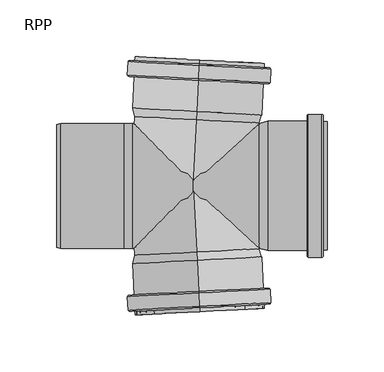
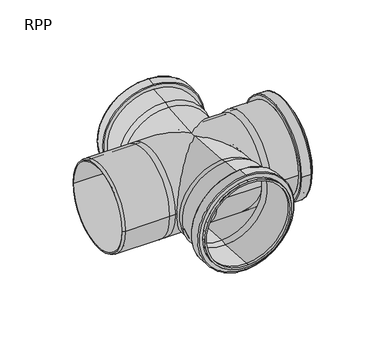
"""IFC4 building model written with IfcOpenShell, lengths in millimetres: pipe fitting geometry, RAUPIANO PLUS Double branch : RPP."""

from ifc_helpers import new_model, si_unit, point, frame, origin, place, context, project, spatial, polyline, circle_curve, ellipse_curve, trimmed, source, transform, mapped, element, save
from ifc_brep_helpers import plane_surface, cylinder_surface, revolved_surface, advanced_brep


def rpp_36789504(model_context):
    return source(origin(), model_context, "Body", "AdvancedBrep", [
        advanced_brep(
        [(58.4, 55.0, 0.0), (58.4, -55.0, 0.0), (65.6, -56.9292342, 0.0), (65.6, 56.9292342, 0.0), (0.0, 55.0, 0.0), (0.0, -55.0, 0.0), (-53.2659564, 55.0, 0.0), (-53.2659564, -55.0, 0.0), (-60.6, 55.0, 0.0), (-60.6, -55.0, 0.0), (-116.4, 55.0, 0.0), (-116.4, -55.0, 0.0), (-120.0, 54.0353829, 0.0), (-120.0, -54.0353829, 0.0), (-60.6, 52.3, 0.0), (-60.6, -52.3, 0.0), (-120.0, -52.3, 0.0), (-120.0, 52.3, 0.0), (-53.1883429, 52.3, 0.0), (-53.1883429, -52.3, 0.0), (0.0, 52.3, 0.0), (0.0, -52.3, 0.0), (58.4, 52.3, 0.0), (58.4, -52.3, 0.0), (65.6, 54.2292342, 0.0), (65.6, -54.2292342, 0.0), (114.4, 54.2292342, 0.0), (114.4, -54.2292342, 0.0), (118.0, 54.2292342, 0.0), (118.0, -54.2292342, 0.0), (114.4, 56.6076952, 0.0), (114.4, -56.6076952, 0.0), (118.0, -56.6076952, 0.0), (118.0, 56.6076952, 0.0), (113.4, 62.9292342, 0.0), (113.4, -62.9292342, 0.0), (114.4, -61.9292342, 0.0), (114.4, 61.9292342, 0.0), (101.5, 62.9292342, 0.0), (101.5, -62.9292342, 0.0), (100.5, 61.9292342, 0.0), (100.5, -61.9292342, 0.0), (100.5, -56.9292342, 0.0), (100.5, 56.9292342, 0.0)],
        [
            (0, 1, circle_curve(frame((58.4, 0.0, 0.0), z_axis=(1.0, 0.0, 0.0), x_axis=(0.0, -1.0, 0.0)), 55.0)),
            (1, 2),
            (2, 3, circle_curve(frame((65.6, 0.0, 0.0), z_axis=(-1.0, 0.0, 0.0), x_axis=(0.0, -1.0, 0.0)), 56.9292342)),
            (3, 0),
            (0, 4),
            (4, 5, circle_curve(frame((0.0, 0.0, 0.0), z_axis=(1.0, 0.0, 0.0), x_axis=(0.0, -1.0, 0.0)), 55.0)),
            (5, 1),
            (4, 6),
            (6, 7, circle_curve(frame((-53.2659564, 0.0, 0.0), z_axis=(1.0, 0.0, 0.0), x_axis=(0.0, -1.0, 0.0)), 55.0)),
            (7, 5),
            (6, 8),
            (8, 9, circle_curve(frame((-60.6, 0.0, 0.0), z_axis=(1.0, 0.0, 0.0), x_axis=(0.0, -1.0, 0.0)), 55.0)),
            (9, 7),
            (8, 10),
            (10, 11, circle_curve(frame((-116.4, 0.0, 0.0), z_axis=(1.0, 0.0, 0.0), x_axis=(0.0, -1.0, 0.0)), 55.0)),
            (11, 9),
            (10, 12),
            (12, 13, circle_curve(frame((-120.0, 0.0, 0.0), z_axis=(1.0, 0.0, 0.0), x_axis=(0.0, -1.0, 0.0)), 54.0353829)),
            (13, 11),
            (14, 15, circle_curve(frame((-60.6, 0.0, 0.0), z_axis=(1.0, 0.0, 0.0), x_axis=(0.0, -1.0, 0.0)), 52.3)),
            (15, 16),
            (16, 17, circle_curve(frame((-120.0, 0.0, 0.0), z_axis=(-1.0, 0.0, 0.0), x_axis=(0.0, -1.0, 0.0)), 52.3)),
            (17, 14),
            (14, 18),
            (18, 19, circle_curve(frame((-53.1883429, 0.0, 0.0), z_axis=(1.0, 0.0, 0.0), x_axis=(0.0, -1.0, 0.0)), 52.3)),
            (19, 15),
            (18, 20),
            (20, 21, circle_curve(frame((0.0, 0.0, 0.0), z_axis=(1.0, 0.0, 0.0), x_axis=(0.0, -1.0, 0.0)), 52.3)),
            (21, 19),
            (20, 22),
            (22, 23, circle_curve(frame((58.4, 0.0, 0.0), z_axis=(1.0, 0.0, 0.0), x_axis=(0.0, -1.0, 0.0)), 52.3)),
            (23, 21),
            (22, 24),
            (24, 25, circle_curve(frame((65.6, 0.0, 0.0), z_axis=(1.0, 0.0, 0.0), x_axis=(0.0, -1.0, 0.0)), 54.2292342)),
            (25, 23),
            (24, 26),
            (26, 27, circle_curve(frame((114.4, 0.0, 0.0), z_axis=(1.0, 0.0, 0.0), x_axis=(0.0, -1.0, 0.0)), 54.2292342)),
            (27, 25),
            (26, 28),
            (28, 29, circle_curve(frame((118.0, 0.0, 0.0), z_axis=(1.0, 0.0, 0.0), x_axis=(0.0, -1.0, 0.0)), 54.2292342)),
            (29, 27),
            (30, 31, circle_curve(frame((114.4, 0.0, 0.0), z_axis=(1.0, 0.0, 0.0), x_axis=(0.0, -1.0, 0.0)), 56.6076952)),
            (31, 32),
            (32, 33, circle_curve(frame((118.0, 0.0, 0.0), z_axis=(-1.0, 0.0, 0.0), x_axis=(0.0, -1.0, 0.0)), 56.6076952)),
            (33, 30),
            (34, 35, circle_curve(frame((113.4, 0.0, 0.0), z_axis=(1.0, 0.0, 0.0), x_axis=(0.0, -1.0, 0.0)), 62.9292342)),
            (35, 36, circle_curve(frame((113.4, -61.9292342, 0.0), z_axis=(0.0, 0.0, 1.0), x_axis=(1.0, 0.0, 0.0)), 1.0)),
            (36, 37, circle_curve(frame((114.4, 0.0, 0.0), z_axis=(-1.0, 0.0, 0.0), x_axis=(0.0, -1.0, 0.0)), 61.9292342)),
            (37, 34, circle_curve(frame((113.4, 61.9292342, 0.0), z_axis=(0.0, 0.0, 1.0), x_axis=(1.0, 0.0, 0.0)), 1.0)),
            (34, 38),
            (38, 39, circle_curve(frame((101.5, 0.0, 0.0), z_axis=(1.0, 0.0, 0.0), x_axis=(0.0, -1.0, 0.0)), 62.9292342)),
            (39, 35),
            (38, 40, circle_curve(frame((101.5, 61.9292342, 0.0), z_axis=(0.0, 0.0, 1.0), x_axis=(1.0, 0.0, 0.0)), 1.0)),
            (40, 41, circle_curve(frame((100.5, 0.0, 0.0), z_axis=(1.0, 0.0, 0.0), x_axis=(0.0, -1.0, 0.0)), 61.9292342)),
            (41, 39, circle_curve(frame((101.5, -61.9292342, 0.0), z_axis=(0.0, 0.0, 1.0), x_axis=(1.0, 0.0, 0.0)), 1.0)),
            (2, 42),
            (42, 43, circle_curve(frame((100.5, 0.0, 0.0), z_axis=(-1.0, 0.0, 0.0), x_axis=(0.0, -1.0, 0.0)), 56.9292342)),
            (43, 3),
            (1, 0, circle_curve(frame((58.4, 0.0, 0.0), z_axis=(1.0, 0.0, 0.0), x_axis=(0.0, 1.0, 0.0)), 55.0)),
            (3, 2, circle_curve(frame((65.6, 0.0, 0.0), z_axis=(-1.0, 0.0, 0.0), x_axis=(0.0, 1.0, 0.0)), 56.9292342)),
            (5, 4, circle_curve(frame((0.0, 0.0, 0.0), z_axis=(1.0, 0.0, 0.0), x_axis=(0.0, 1.0, 0.0)), 55.0)),
            (7, 6, circle_curve(frame((-53.2659564, 0.0, 0.0), z_axis=(1.0, 0.0, 0.0), x_axis=(0.0, 1.0, 0.0)), 55.0)),
            (9, 8, circle_curve(frame((-60.6, 0.0, 0.0), z_axis=(1.0, 0.0, 0.0), x_axis=(0.0, 1.0, 0.0)), 55.0)),
            (11, 10, circle_curve(frame((-116.4, 0.0, 0.0), z_axis=(1.0, 0.0, 0.0), x_axis=(0.0, 1.0, 0.0)), 55.0)),
            (13, 12, circle_curve(frame((-120.0, 0.0, 0.0), z_axis=(1.0, 0.0, 0.0), x_axis=(0.0, 1.0, 0.0)), 54.0353829)),
            (16, 17, circle_curve(frame((-120.0, 0.0, 0.0), z_axis=(1.0, 0.0, 0.0), x_axis=(0.0, 1.0, 0.0)), 52.3)),
            (15, 14, circle_curve(frame((-60.6, 0.0, 0.0), z_axis=(1.0, 0.0, 0.0), x_axis=(0.0, 1.0, 0.0)), 52.3)),
            (19, 18, circle_curve(frame((-53.1883429, 0.0, 0.0), z_axis=(1.0, 0.0, 0.0), x_axis=(0.0, 1.0, 0.0)), 52.3)),
            (21, 20, circle_curve(frame((0.0, 0.0, 0.0), z_axis=(1.0, 0.0, 0.0), x_axis=(0.0, 1.0, 0.0)), 52.3)),
            (23, 22, circle_curve(frame((58.4, 0.0, 0.0), z_axis=(1.0, 0.0, 0.0), x_axis=(0.0, 1.0, 0.0)), 52.3)),
            (25, 24, circle_curve(frame((65.6, 0.0, 0.0), z_axis=(1.0, 0.0, 0.0), x_axis=(0.0, 1.0, 0.0)), 54.2292342)),
            (27, 26, circle_curve(frame((114.4, 0.0, 0.0), z_axis=(1.0, 0.0, 0.0), x_axis=(0.0, 1.0, 0.0)), 54.2292342)),
            (29, 28, circle_curve(frame((118.0, 0.0, 0.0), z_axis=(1.0, 0.0, 0.0), x_axis=(0.0, 1.0, 0.0)), 54.2292342)),
            (32, 33, circle_curve(frame((118.0, 0.0, 0.0), z_axis=(1.0, 0.0, 0.0), x_axis=(0.0, 1.0, 0.0)), 56.6076952)),
            (31, 30, circle_curve(frame((114.4, 0.0, 0.0), z_axis=(1.0, 0.0, 0.0), x_axis=(0.0, 1.0, 0.0)), 56.6076952)),
            (36, 37, circle_curve(frame((114.4, 0.0, 0.0), z_axis=(1.0, 0.0, 0.0), x_axis=(0.0, 1.0, 0.0)), 61.9292342)),
            (35, 34, circle_curve(frame((113.4, 0.0, 0.0), z_axis=(1.0, 0.0, 0.0), x_axis=(0.0, 1.0, 0.0)), 62.9292342)),
            (39, 38, circle_curve(frame((101.5, 0.0, 0.0), z_axis=(1.0, 0.0, 0.0), x_axis=(0.0, 1.0, 0.0)), 62.9292342)),
            (41, 40, circle_curve(frame((100.5, 0.0, 0.0), z_axis=(1.0, 0.0, 0.0), x_axis=(0.0, 1.0, 0.0)), 61.9292342)),
            (42, 43, circle_curve(frame((100.5, 0.0, 0.0), z_axis=(1.0, 0.0, 0.0), x_axis=(0.0, 1.0, 0.0)), 56.9292342)),
        ],
        [
            revolved_surface(polyline([(65.6, -56.9292342, 0.0), (58.4, -55.0, 0.0)]), (0.0, 0.0, 0.0), (-1.0, 0.0, 0.0)),
            cylinder_surface(frame((0.0, 0.0, 0.0), z_axis=(-1.0, 0.0, 0.0), x_axis=(0.0, -1.0, 0.0)), 55.0),
            revolved_surface(polyline([(-116.4, -55.0, 0.0), (-120.0, -54.0353829, 0.0)]), (0.0, 0.0, 0.0), (-1.0, 0.0, 0.0)),
            revolved_surface(polyline([(-120.0, -52.3, 0.0), (-60.6, -52.3, 0.0)]), (0.0, 0.0, 0.0), (-1.0, 0.0, 0.0)),
            revolved_surface(polyline([(-60.6, -52.3, 0.0), (-53.1883429, -52.3, 0.0)]), (0.0, 0.0, 0.0), (-1.0, 0.0, 0.0)),
            revolved_surface(polyline([(-53.1883429, -52.3, 0.0), (0.0, -52.3, 0.0)]), (0.0, 0.0, 0.0), (-1.0, 0.0, 0.0)),
            revolved_surface(polyline([(0.0, -52.3, 0.0), (58.4, -52.3, 0.0)]), (0.0, 0.0, 0.0), (-1.0, 0.0, 0.0)),
            revolved_surface(polyline([(58.4, -52.3, 0.0), (65.6, -54.2292342, 0.0)]), (0.0, 0.0, 0.0), (-1.0, 0.0, 0.0)),
            revolved_surface(polyline([(65.6, -54.2292342, 0.0), (114.4, -54.2292342, 0.0)]), (0.0, 0.0, 0.0), (-1.0, 0.0, 0.0)),
            revolved_surface(polyline([(114.4, -54.2292342, 0.0), (118.0, -54.2292342, 0.0)]), (0.0, 0.0, 0.0), (-1.0, 0.0, 0.0)),
            cylinder_surface(frame((0.0, 0.0, 0.0), z_axis=(-1.0, 0.0, 0.0), x_axis=(0.0, -1.0, 0.0)), 56.6076952),
            revolved_surface(trimmed(ellipse_curve(frame((113.4, -61.9292342, 0.0), z_axis=(0.0, 0.0, -1.0), x_axis=(1.0, 0.0, 0.0)), 1.0, 1.0), [point((114.4, -61.9292342, 0.0))], [point((113.4, -62.9292342, 0.0))], True, "CARTESIAN"), (0.0, 0.0, 0.0), (-1.0, 0.0, 0.0)),
            cylinder_surface(frame((0.0, 0.0, 0.0), z_axis=(-1.0, 0.0, 0.0), x_axis=(0.0, -1.0, 0.0)), 62.9292342),
            revolved_surface(trimmed(ellipse_curve(frame((101.5, -61.9292342, 0.0), z_axis=(0.0, 0.0, -1.0), x_axis=(1.0, 0.0, 0.0)), 1.0, 1.0), [point((101.5, -62.9292342, 0.0))], [point((100.5, -61.9292342, 0.0))], True, "CARTESIAN"), (0.0, 0.0, 0.0), (-1.0, 0.0, 0.0)),
            cylinder_surface(frame((0.0, 0.0, 0.0), z_axis=(-1.0, 0.0, 0.0), x_axis=(0.0, -1.0, 0.0)), 56.9292342),
            revolved_surface(polyline([(65.6, 56.9292342, 0.0), (58.4, 55.0, 0.0)]), (0.0, 0.0, 0.0), (-1.0, 0.0, 0.0)),
            cylinder_surface(frame((0.0, 0.0, 0.0), z_axis=(-1.0, 0.0, 0.0), x_axis=(0.0, 1.0, 0.0)), 55.0),
            revolved_surface(polyline([(-116.4, 55.0, 0.0), (-120.0, 54.0353829, 0.0)]), (0.0, 0.0, 0.0), (-1.0, 0.0, 0.0)),
            plane_surface(frame((-120.0, 0.0, 0.0), z_axis=(-1.0, 0.0, 0.0), x_axis=(0.0, 1.0, 0.0))),
            revolved_surface(polyline([(-120.0, 52.3, 0.0), (-60.6, 52.3, 0.0)]), (0.0, 0.0, 0.0), (-1.0, 0.0, 0.0)),
            revolved_surface(polyline([(-60.6, 52.3, 0.0), (-53.1883429, 52.3, 0.0)]), (0.0, 0.0, 0.0), (-1.0, 0.0, 0.0)),
            revolved_surface(polyline([(-53.1883429, 52.3, 0.0), (0.0, 52.3, 0.0)]), (0.0, 0.0, 0.0), (-1.0, 0.0, 0.0)),
            revolved_surface(polyline([(0.0, 52.3, 0.0), (58.4, 52.3, 0.0)]), (0.0, 0.0, 0.0), (-1.0, 0.0, 0.0)),
            revolved_surface(polyline([(58.4, 52.3, 0.0), (65.6, 54.2292342, 0.0)]), (0.0, 0.0, 0.0), (-1.0, 0.0, 0.0)),
            revolved_surface(polyline([(65.6, 54.2292342, 0.0), (114.4, 54.2292342, 0.0)]), (0.0, 0.0, 0.0), (-1.0, 0.0, 0.0)),
            revolved_surface(polyline([(114.4, 54.2292342, 0.0), (118.0, 54.2292342, 0.0)]), (0.0, 0.0, 0.0), (-1.0, 0.0, 0.0)),
            plane_surface(frame((118.0, 0.0, 0.0), z_axis=(1.0, 0.0, 0.0), x_axis=(0.0, 1.0, 0.0))),
            cylinder_surface(frame((0.0, 0.0, 0.0), z_axis=(-1.0, 0.0, 0.0), x_axis=(0.0, 1.0, 0.0)), 56.6076952),
            plane_surface(frame((114.4, 0.0, 0.0), z_axis=(1.0, 0.0, 0.0), x_axis=(0.0, 1.0, 0.0))),
            revolved_surface(trimmed(ellipse_curve(frame((113.4, 61.9292342, 0.0), z_axis=(0.0, 0.0, 1.0), x_axis=(1.0, 0.0, 0.0)), 1.0, 1.0), [point((114.4, 61.9292342, 0.0))], [point((113.4, 62.9292342, 0.0))], True, "CARTESIAN"), (0.0, 0.0, 0.0), (-1.0, 0.0, 0.0)),
            cylinder_surface(frame((0.0, 0.0, 0.0), z_axis=(-1.0, 0.0, 0.0), x_axis=(0.0, 1.0, 0.0)), 62.9292342),
            revolved_surface(trimmed(ellipse_curve(frame((101.5, 61.9292342, 0.0), z_axis=(0.0, 0.0, 1.0), x_axis=(1.0, 0.0, 0.0)), 1.0, 1.0), [point((101.5, 62.9292342, 0.0))], [point((100.5, 61.9292342, 0.0))], True, "CARTESIAN"), (0.0, 0.0, 0.0), (-1.0, 0.0, 0.0)),
            plane_surface(frame((100.5, 0.0, 0.0), z_axis=(-1.0, 0.0, 0.0), x_axis=(0.0, 1.0, 0.0))),
            cylinder_surface(frame((0.0, 0.0, 0.0), z_axis=(-1.0, 0.0, 0.0), x_axis=(0.0, 1.0, 0.0)), 56.9292342),
        ],
        [
            (0, [[1, 2, 3, 4]]),
            (1, [[-1, 5, 6, 7]]),
            (1, [[-6, 8, 9, 10]]),
            (1, [[-9, 11, 12, 13]]),
            (1, [[-12, 14, 15, 16]]),
            (2, [[-15, 17, 18, 19]]),
            (3, [[20, 21, 22, 23]]),
            (4, [[-20, 24, 25, 26]]),
            (5, [[-25, 27, 28, 29]]),
            (6, [[-28, 30, 31, 32]]),
            (7, [[-31, 33, 34, 35]]),
            (8, [[-34, 36, 37, 38]]),
            (9, [[-37, 39, 40, 41]]),
            (10, [[42, 43, 44, 45]]),
            (11, [[46, 47, 48, 49]]),
            (12, [[-46, 50, 51, 52]]),
            (13, [[-51, 53, 54, 55]]),
            (14, [[-3, 56, 57, 58]]),
            (15, [[-2, 59, -4, 60]]),
            (16, [[-7, 61, -5, -59]]),
            (16, [[-10, 62, -8, -61]]),
            (16, [[-13, 63, -11, -62]]),
            (16, [[-16, 64, -14, -63]]),
            (17, [[-19, 65, -17, -64]]),
            (18, [[-18, -65], [-22, 66]]),
            (19, [[-21, 67, -23, -66]]),
            (20, [[-26, 68, -24, -67]]),
            (21, [[-29, 69, -27, -68]]),
            (22, [[-32, 70, -30, -69]]),
            (23, [[-35, 71, -33, -70]]),
            (24, [[-38, 72, -36, -71]]),
            (25, [[-41, 73, -39, -72]]),
            (26, [[-44, 74], [-40, -73]]),
            (27, [[-43, 75, -45, -74]]),
            (28, [[-48, 76], [-42, -75]]),
            (29, [[-47, 77, -49, -76]]),
            (30, [[-52, 78, -50, -77]]),
            (31, [[-55, 79, -53, -78]]),
            (32, [[-54, -79], [-57, 80]]),
            (33, [[-56, -60, -58, -80]]),
        ],
    ),
        advanced_brep(
        [(3.0564198, -58.3199648, 55.0), (3.0564198, -58.3199648, -55.0), (3.4332387, -65.5100975, -56.9292342), (3.4332387, -65.5100975, 56.9292342), (3.4332387, -65.5100975, 54.2292342), (3.4332387, -65.5100975, -54.2292342), (3.0564198, -58.3199648, -52.3), (3.0564198, -58.3199648, 52.3), (5.6208817, -107.252812, 54.2292342), (5.6208817, -107.252812, -54.2292342), (5.8092911, -110.8478784, 54.2292342), (5.8092911, -110.8478784, -54.2292342), (5.6208817, -107.252812, 56.6076952), (5.6208817, -107.252812, -56.6076952), (5.8092911, -110.8478784, -56.6076952), (5.8092911, -110.8478784, 56.6076952), (5.5685457, -106.2541825, 62.9292342), (5.5685457, -106.2541825, -62.9292342), (5.6208817, -107.252812, -61.9292342), (5.6208817, -107.252812, 61.9292342), (4.9457479, -94.370491, 62.9292342), (4.9457479, -94.370491, -62.9292342), (4.8934119, -93.3718615, 61.9292342), (4.8934119, -93.3718615, -61.9292342), (4.8934119, -93.3718615, -56.9292342), (4.8934119, -93.3718615, 56.9292342)],
        [
            (0, 1, circle_curve(frame((3.0564198, -58.3199648, 0.0), z_axis=(0.052335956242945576, -0.9986295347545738, 0.0), x_axis=(0.0, 0.0, -1.0)), 55.0)),
            (1, 2),
            (2, 3, circle_curve(frame((3.4332387, -65.5100975, 0.0), z_axis=(-0.052335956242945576, 0.9986295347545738, 0.0), x_axis=(0.0, 0.0, -1.0)), 56.9292342)),
            (3, 0),
            (4, 5, circle_curve(frame((3.4332387, -65.5100975, 0.0), z_axis=(0.052335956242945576, -0.9986295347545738, 0.0), x_axis=(0.0, 0.0, -1.0)), 54.2292342)),
            (5, 6),
            (6, 7, circle_curve(frame((3.0564198, -58.3199648, 0.0), z_axis=(-0.052335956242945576, 0.9986295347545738, 0.0), x_axis=(0.0, 0.0, -1.0)), 52.3)),
            (7, 4),
            (8, 9, circle_curve(frame((5.6208817, -107.252812, 0.0), z_axis=(0.052335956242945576, -0.9986295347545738, 0.0), x_axis=(0.0, 0.0, -1.0)), 54.2292342)),
            (9, 5),
            (4, 8),
            (10, 11, circle_curve(frame((5.8092911, -110.8478784, 0.0), z_axis=(0.052335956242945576, -0.9986295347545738, 0.0), x_axis=(0.0, 0.0, -1.0)), 54.2292342)),
            (11, 9),
            (8, 10),
            (12, 13, circle_curve(frame((5.6208817, -107.252812, 0.0), z_axis=(0.052335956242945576, -0.9986295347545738, 0.0), x_axis=(0.0, 0.0, -1.0)), 56.6076952)),
            (13, 14),
            (14, 15, circle_curve(frame((5.8092911, -110.8478784, 0.0), z_axis=(-0.052335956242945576, 0.9986295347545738, 0.0), x_axis=(0.0, 0.0, -1.0)), 56.6076952)),
            (15, 12),
            (16, 17, circle_curve(frame((5.5685457, -106.2541825, 0.0), z_axis=(0.052335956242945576, -0.9986295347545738, 0.0), x_axis=(0.0, 0.0, -1.0)), 62.9292342)),
            (17, 18, circle_curve(frame((5.5685457, -106.2541825, -61.9292342), z_axis=(-0.9986295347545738, -0.05233595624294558, 0.0), x_axis=(0.05233595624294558, -0.9986295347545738, 0.0)), 1.0)),
            (18, 19, circle_curve(frame((5.6208817, -107.252812, 0.0), z_axis=(-0.052335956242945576, 0.9986295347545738, 0.0), x_axis=(0.0, 0.0, -1.0)), 61.9292342)),
            (19, 16, circle_curve(frame((5.5685457, -106.2541825, 61.9292342), z_axis=(-0.9986295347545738, -0.05233595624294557, 0.0), x_axis=(0.05233595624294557, -0.9986295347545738, 0.0)), 1.0)),
            (20, 21, circle_curve(frame((4.9457479, -94.370491, 0.0), z_axis=(0.052335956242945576, -0.9986295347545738, 0.0), x_axis=(0.0, 0.0, -1.0)), 62.9292342)),
            (21, 17),
            (16, 20),
            (22, 23, circle_curve(frame((4.8934119, -93.3718615, 0.0), z_axis=(0.052335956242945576, -0.9986295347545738, 0.0), x_axis=(0.0, 0.0, -1.0)), 61.9292342)),
            (23, 21, circle_curve(frame((4.9457479, -94.370491, -61.9292342), z_axis=(-0.9986295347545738, -0.05233595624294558, 0.0), x_axis=(0.05233595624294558, -0.9986295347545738, 0.0)), 1.0)),
            (20, 22, circle_curve(frame((4.9457479, -94.370491, 61.9292342), z_axis=(-0.9986295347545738, -0.05233595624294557, 0.0), x_axis=(0.05233595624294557, -0.9986295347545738, 0.0)), 1.0)),
            (2, 24),
            (24, 25, circle_curve(frame((4.8934119, -93.3718615, 0.0), z_axis=(-0.052335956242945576, 0.9986295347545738, 0.0), x_axis=(0.0, 0.0, -1.0)), 56.9292342)),
            (25, 3),
            (1, 0, circle_curve(frame((3.0564198, -58.3199648, 0.0), z_axis=(0.052335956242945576, -0.9986295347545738, 0.0), x_axis=(0.0, 0.0, 1.0)), 55.0)),
            (3, 2, circle_curve(frame((3.4332387, -65.5100975, 0.0), z_axis=(-0.052335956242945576, 0.9986295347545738, 0.0), x_axis=(0.0, 0.0, 1.0)), 56.9292342)),
            (6, 7, circle_curve(frame((3.0564198, -58.3199648, 0.0), z_axis=(0.052335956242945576, -0.9986295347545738, 0.0), x_axis=(0.0, 0.0, 1.0)), 52.3)),
            (5, 4, circle_curve(frame((3.4332387, -65.5100975, 0.0), z_axis=(0.052335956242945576, -0.9986295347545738, 0.0), x_axis=(0.0, 0.0, 1.0)), 54.2292342)),
            (9, 8, circle_curve(frame((5.6208817, -107.252812, 0.0), z_axis=(0.052335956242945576, -0.9986295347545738, 0.0), x_axis=(0.0, 0.0, 1.0)), 54.2292342)),
            (11, 10, circle_curve(frame((5.8092911, -110.8478784, 0.0), z_axis=(0.052335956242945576, -0.9986295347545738, 0.0), x_axis=(0.0, 0.0, 1.0)), 54.2292342)),
            (14, 15, circle_curve(frame((5.8092911, -110.8478784, 0.0), z_axis=(0.052335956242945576, -0.9986295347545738, 0.0), x_axis=(0.0, 0.0, 1.0)), 56.6076952)),
            (13, 12, circle_curve(frame((5.6208817, -107.252812, 0.0), z_axis=(0.052335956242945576, -0.9986295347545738, 0.0), x_axis=(0.0, 0.0, 1.0)), 56.6076952)),
            (18, 19, circle_curve(frame((5.6208817, -107.252812, 0.0), z_axis=(0.052335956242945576, -0.9986295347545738, 0.0), x_axis=(0.0, 0.0, 1.0)), 61.9292342)),
            (17, 16, circle_curve(frame((5.5685457, -106.2541825, 0.0), z_axis=(0.052335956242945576, -0.9986295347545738, 0.0), x_axis=(0.0, 0.0, 1.0)), 62.9292342)),
            (21, 20, circle_curve(frame((4.9457479, -94.370491, 0.0), z_axis=(0.052335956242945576, -0.9986295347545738, 0.0), x_axis=(0.0, 0.0, 1.0)), 62.9292342)),
            (23, 22, circle_curve(frame((4.8934119, -93.3718615, 0.0), z_axis=(0.052335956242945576, -0.9986295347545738, 0.0), x_axis=(0.0, 0.0, 1.0)), 61.9292342)),
            (24, 25, circle_curve(frame((4.8934119, -93.3718615, 0.0), z_axis=(0.052335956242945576, -0.9986295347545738, 0.0), x_axis=(0.0, 0.0, 1.0)), 56.9292342)),
        ],
        [
            revolved_surface(polyline([(3.4332387, -65.5100975, -56.9292342), (3.0564198, -58.3199648, -55.0)]), (0.0, 0.0, 0.0), (-0.052335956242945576, 0.9986295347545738, 0.0)),
            revolved_surface(polyline([(3.0564198, -58.3199648, -52.3), (3.4332387, -65.5100975, -54.2292342)]), (0.0, 0.0, 0.0), (-0.052335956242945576, 0.9986295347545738, 0.0)),
            revolved_surface(polyline([(3.433238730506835, -65.51009749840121, -54.2292342), (5.6208816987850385, -107.25281200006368, -54.2292342)]), (0.0, 0.0, 0.0), (-0.052335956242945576, 0.9986295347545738, 0.0)),
            revolved_surface(polyline([(5.6208816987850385, -107.25281200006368, -54.2292342), (5.809291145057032, -110.84787839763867, -54.2292342)]), (0.0, 0.0, 0.0), (-0.052335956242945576, 0.9986295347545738, 0.0)),
            cylinder_surface(frame((0.0, 0.0, 0.0), z_axis=(-0.052335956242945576, 0.9986295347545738, 0.0), x_axis=(0.0, 0.0, -1.0)), 56.6076952),
            revolved_surface(trimmed(ellipse_curve(frame((5.5685457, -106.2541825, -61.9292342), z_axis=(0.9986295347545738, 0.05233595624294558, 0.0), x_axis=(0.05233595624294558, -0.9986295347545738, 0.0)), 1.0, 1.0), [point((5.6208817, -107.252812, -61.9292342))], [point((5.5685457, -106.2541825, -62.9292342))], True, "CARTESIAN"), (0.0, 0.0, 0.0), (-0.052335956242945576, 0.9986295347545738, 0.0)),
            cylinder_surface(frame((0.0, 0.0, 0.0), z_axis=(-0.052335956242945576, 0.9986295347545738, 0.0), x_axis=(0.0, 0.0, -1.0)), 62.9292342),
            revolved_surface(trimmed(ellipse_curve(frame((4.9457479, -94.370491, -61.9292342), z_axis=(0.9986295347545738, 0.05233595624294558, 0.0), x_axis=(0.05233595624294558, -0.9986295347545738, 0.0)), 1.0, 1.0), [point((4.9457479, -94.370491, -62.9292342))], [point((4.8934119, -93.3718615, -61.9292342))], True, "CARTESIAN"), (0.0, 0.0, 0.0), (-0.052335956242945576, 0.9986295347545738, 0.0)),
            cylinder_surface(frame((0.0, 0.0, 0.0), z_axis=(-0.052335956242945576, 0.9986295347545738, 0.0), x_axis=(0.0, 0.0, -1.0)), 56.9292342),
            revolved_surface(polyline([(3.4332387, -65.5100975, 56.9292342), (3.0564198, -58.3199648, 55.0)]), (0.0, 0.0, 0.0), (-0.052335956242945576, 0.9986295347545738, 0.0)),
            plane_surface(frame((3.0564198, -58.3199648, 0.0), z_axis=(-0.052335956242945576, 0.9986295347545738, 0.0), x_axis=(0.0, 0.0, 1.0))),
            revolved_surface(polyline([(3.0564198, -58.3199648, 52.3), (3.4332387, -65.5100975, 54.2292342)]), (0.0, 0.0, 0.0), (-0.052335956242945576, 0.9986295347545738, 0.0)),
            revolved_surface(polyline([(3.433238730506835, -65.51009749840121, 54.2292342), (5.6208816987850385, -107.25281200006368, 54.2292342)]), (0.0, 0.0, 0.0), (-0.052335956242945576, 0.9986295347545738, 0.0)),
            revolved_surface(polyline([(5.6208816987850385, -107.25281200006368, 54.2292342), (5.809291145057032, -110.84787839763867, 54.2292342)]), (0.0, 0.0, 0.0), (-0.052335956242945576, 0.9986295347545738, 0.0)),
            plane_surface(frame((5.8092911, -110.8478784, 0.0), z_axis=(0.052335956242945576, -0.9986295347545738, 0.0), x_axis=(0.0, 0.0, 1.0))),
            cylinder_surface(frame((0.0, 0.0, 0.0), z_axis=(-0.052335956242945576, 0.9986295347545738, 0.0), x_axis=(0.0, 0.0, 1.0)), 56.6076952),
            plane_surface(frame((5.6208817, -107.252812, 0.0), z_axis=(0.052335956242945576, -0.9986295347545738, 0.0), x_axis=(0.0, 0.0, 1.0))),
            revolved_surface(trimmed(ellipse_curve(frame((5.5685457, -106.2541825, 61.9292342), z_axis=(-0.9986295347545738, -0.052335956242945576, 0.0), x_axis=(0.052335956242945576, -0.9986295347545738, 0.0)), 1.0, 1.0), [point((5.6208817, -107.252812, 61.9292342))], [point((5.5685457, -106.2541825, 62.9292342))], True, "CARTESIAN"), (0.0, 0.0, 0.0), (-0.052335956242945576, 0.9986295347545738, 0.0)),
            cylinder_surface(frame((0.0, 0.0, 0.0), z_axis=(-0.052335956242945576, 0.9986295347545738, 0.0), x_axis=(0.0, 0.0, 1.0)), 62.9292342),
            revolved_surface(trimmed(ellipse_curve(frame((4.9457479, -94.370491, 61.9292342), z_axis=(-0.9986295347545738, -0.052335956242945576, 0.0), x_axis=(0.052335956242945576, -0.9986295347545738, 0.0)), 1.0, 1.0), [point((4.9457479, -94.370491, 62.9292342))], [point((4.8934119, -93.3718615, 61.9292342))], True, "CARTESIAN"), (0.0, 0.0, 0.0), (-0.052335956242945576, 0.9986295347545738, 0.0)),
            plane_surface(frame((4.8934119, -93.3718615, 0.0), z_axis=(-0.052335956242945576, 0.9986295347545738, 0.0), x_axis=(0.0, 0.0, 1.0))),
            cylinder_surface(frame((0.0, 0.0, 0.0), z_axis=(-0.052335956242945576, 0.9986295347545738, 0.0), x_axis=(0.0, 0.0, 1.0)), 56.9292342),
        ],
        [
            (0, [[1, 2, 3, 4]]),
            (1, [[5, 6, 7, 8]]),
            (2, [[9, 10, -5, 11]]),
            (3, [[12, 13, -9, 14]]),
            (4, [[15, 16, 17, 18]]),
            (5, [[19, 20, 21, 22]]),
            (6, [[23, 24, -19, 25]]),
            (7, [[26, 27, -23, 28]]),
            (8, [[-3, 29, 30, 31]]),
            (9, [[32, -4, 33, -2]]),
            (10, [[-32, -1], [34, -7]]),
            (11, [[35, -8, -34, -6]]),
            (12, [[36, -11, -35, -10]]),
            (13, [[37, -14, -36, -13]]),
            (14, [[38, -17], [-37, -12]]),
            (15, [[39, -18, -38, -16]]),
            (16, [[40, -21], [-39, -15]]),
            (17, [[41, -22, -40, -20]]),
            (18, [[42, -25, -41, -24]]),
            (19, [[43, -28, -42, -27]]),
            (20, [[-43, -26], [44, -30]]),
            (21, [[-33, -31, -44, -29]]),
        ],
    ),
        advanced_brep(
        [(3.0564198, -58.3199648, 55.0), (3.0564198, -58.3199648, -55.0), (3.4332387, -65.5100975, -56.9292342), (3.4332387, -65.5100975, 56.9292342), (0.0, 0.0, 55.0), (0.0, 0.0, -55.0), (3.0564198, -58.3199648, 52.3), (3.0564198, -58.3199648, -52.3), (0.0, 0.0, -52.3), (0.0, 0.0, 52.3), (3.4332387, -65.5100975, 54.2292342), (3.4332387, -65.5100975, -54.2292342), (5.6208817, -107.252812, 54.2292342), (5.6208817, -107.252812, -54.2292342), (5.8092911, -110.8478784, 54.2292342), (5.8092911, -110.8478784, -54.2292342), (5.6208817, -107.252812, 56.9292342), (5.6208817, -107.252812, -56.9292342), (5.8092911, -110.8478784, -56.9292342), (5.8092911, -110.8478784, 56.9292342), (5.5685457, -106.2541825, 62.9292342), (5.5685457, -106.2541825, -62.9292342), (5.6208817, -107.252812, -61.9292342), (5.6208817, -107.252812, 61.9292342), (4.9457479, -94.370491, 62.9292342), (4.9457479, -94.370491, -62.9292342), (4.8934119, -93.3718615, 61.9292342), (4.8934119, -93.3718615, -61.9292342), (4.8934119, -93.3718615, -56.9292342), (4.8934119, -93.3718615, 56.9292342)],
        [
            (0, 1, circle_curve(frame((3.0564198, -58.3199648, 0.0), z_axis=(0.052335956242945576, -0.9986295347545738, 0.0), x_axis=(0.0, 0.0, -1.0)), 55.0)),
            (1, 2),
            (2, 3, circle_curve(frame((3.4332387, -65.5100975, 0.0), z_axis=(-0.052335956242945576, 0.9986295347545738, 0.0), x_axis=(0.0, 0.0, -1.0)), 56.9292342)),
            (3, 0),
            (4, 5, circle_curve(frame((0.0, 0.0, 0.0), z_axis=(0.052335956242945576, -0.9986295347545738, 0.0), x_axis=(0.0, 0.0, -1.0)), 55.0)),
            (5, 1),
            (0, 4),
            (6, 7, circle_curve(frame((3.0564198, -58.3199648, 0.0), z_axis=(0.052335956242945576, -0.9986295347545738, 0.0), x_axis=(0.0, 0.0, -1.0)), 52.3)),
            (7, 8),
            (8, 9, circle_curve(frame((0.0, 0.0, 0.0), z_axis=(-0.052335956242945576, 0.9986295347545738, 0.0), x_axis=(0.0, 0.0, -1.0)), 52.3)),
            (9, 6),
            (10, 11, circle_curve(frame((3.4332387, -65.5100975, 0.0), z_axis=(0.052335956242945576, -0.9986295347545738, 0.0), x_axis=(0.0, 0.0, -1.0)), 54.2292342)),
            (11, 7),
            (6, 10),
            (12, 13, circle_curve(frame((5.6208817, -107.252812, 0.0), z_axis=(0.052335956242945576, -0.9986295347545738, 0.0), x_axis=(0.0, 0.0, -1.0)), 54.2292342)),
            (13, 11),
            (10, 12),
            (14, 15, circle_curve(frame((5.8092911, -110.8478784, 0.0), z_axis=(0.052335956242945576, -0.9986295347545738, 0.0), x_axis=(0.0, 0.0, -1.0)), 54.2292342)),
            (15, 13),
            (12, 14),
            (16, 17, circle_curve(frame((5.6208817, -107.252812, 0.0), z_axis=(0.052335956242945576, -0.9986295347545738, 0.0), x_axis=(0.0, 0.0, -1.0)), 56.9292342)),
            (17, 18),
            (18, 19, circle_curve(frame((5.8092911, -110.8478784, 0.0), z_axis=(-0.052335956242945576, 0.9986295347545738, 0.0), x_axis=(0.0, 0.0, -1.0)), 56.9292342)),
            (19, 16),
            (20, 21, circle_curve(frame((5.5685457, -106.2541825, 0.0), z_axis=(0.052335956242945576, -0.9986295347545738, 0.0), x_axis=(0.0, 0.0, -1.0)), 62.9292342)),
            (21, 22, circle_curve(frame((5.5685457, -106.2541825, -61.9292342), z_axis=(-0.9986295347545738, -0.05233595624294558, 0.0), x_axis=(0.05233595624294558, -0.9986295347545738, 0.0)), 1.0)),
            (22, 23, circle_curve(frame((5.6208817, -107.252812, 0.0), z_axis=(-0.052335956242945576, 0.9986295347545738, 0.0), x_axis=(0.0, 0.0, -1.0)), 61.9292342)),
            (23, 20, circle_curve(frame((5.5685457, -106.2541825, 61.9292342), z_axis=(-0.9986295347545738, -0.05233595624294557, 0.0), x_axis=(0.05233595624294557, -0.9986295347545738, 0.0)), 1.0)),
            (24, 25, circle_curve(frame((4.9457479, -94.370491, 0.0), z_axis=(0.052335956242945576, -0.9986295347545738, 0.0), x_axis=(0.0, 0.0, -1.0)), 62.9292342)),
            (25, 21),
            (20, 24),
            (26, 27, circle_curve(frame((4.8934119, -93.3718615, 0.0), z_axis=(0.052335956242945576, -0.9986295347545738, 0.0), x_axis=(0.0, 0.0, -1.0)), 61.9292342)),
            (27, 25, circle_curve(frame((4.9457479, -94.370491, -61.9292342), z_axis=(-0.9986295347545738, -0.05233595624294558, 0.0), x_axis=(0.05233595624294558, -0.9986295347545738, 0.0)), 1.0)),
            (24, 26, circle_curve(frame((4.9457479, -94.370491, 61.9292342), z_axis=(-0.9986295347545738, -0.05233595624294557, 0.0), x_axis=(0.05233595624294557, -0.9986295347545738, 0.0)), 1.0)),
            (2, 28),
            (28, 29, circle_curve(frame((4.8934119, -93.3718615, 0.0), z_axis=(-0.052335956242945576, 0.9986295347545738, 0.0), x_axis=(0.0, 0.0, -1.0)), 56.9292342)),
            (29, 3),
            (1, 0, circle_curve(frame((3.0564198, -58.3199648, 0.0), z_axis=(0.052335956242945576, -0.9986295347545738, 0.0), x_axis=(0.0, 0.0, 1.0)), 55.0)),
            (3, 2, circle_curve(frame((3.4332387, -65.5100975, 0.0), z_axis=(-0.052335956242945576, 0.9986295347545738, 0.0), x_axis=(0.0, 0.0, 1.0)), 56.9292342)),
            (5, 4, circle_curve(frame((0.0, 0.0, 0.0), z_axis=(0.052335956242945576, -0.9986295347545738, 0.0), x_axis=(0.0, 0.0, 1.0)), 55.0)),
            (8, 9, circle_curve(frame((0.0, 0.0, 0.0), z_axis=(0.052335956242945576, -0.9986295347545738, 0.0), x_axis=(0.0, 0.0, 1.0)), 52.3)),
            (7, 6, circle_curve(frame((3.0564198, -58.3199648, 0.0), z_axis=(0.052335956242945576, -0.9986295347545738, 0.0), x_axis=(0.0, 0.0, 1.0)), 52.3)),
            (11, 10, circle_curve(frame((3.4332387, -65.5100975, 0.0), z_axis=(0.052335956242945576, -0.9986295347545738, 0.0), x_axis=(0.0, 0.0, 1.0)), 54.2292342)),
            (13, 12, circle_curve(frame((5.6208817, -107.252812, 0.0), z_axis=(0.052335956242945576, -0.9986295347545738, 0.0), x_axis=(0.0, 0.0, 1.0)), 54.2292342)),
            (15, 14, circle_curve(frame((5.8092911, -110.8478784, 0.0), z_axis=(0.052335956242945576, -0.9986295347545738, 0.0), x_axis=(0.0, 0.0, 1.0)), 54.2292342)),
            (18, 19, circle_curve(frame((5.8092911, -110.8478784, 0.0), z_axis=(0.052335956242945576, -0.9986295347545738, 0.0), x_axis=(0.0, 0.0, 1.0)), 56.9292342)),
            (17, 16, circle_curve(frame((5.6208817, -107.252812, 0.0), z_axis=(0.052335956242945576, -0.9986295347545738, 0.0), x_axis=(0.0, 0.0, 1.0)), 56.9292342)),
            (22, 23, circle_curve(frame((5.6208817, -107.252812, 0.0), z_axis=(0.052335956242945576, -0.9986295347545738, 0.0), x_axis=(0.0, 0.0, 1.0)), 61.9292342)),
            (21, 20, circle_curve(frame((5.5685457, -106.2541825, 0.0), z_axis=(0.052335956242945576, -0.9986295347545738, 0.0), x_axis=(0.0, 0.0, 1.0)), 62.9292342)),
            (25, 24, circle_curve(frame((4.9457479, -94.370491, 0.0), z_axis=(0.052335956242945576, -0.9986295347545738, 0.0), x_axis=(0.0, 0.0, 1.0)), 62.9292342)),
            (27, 26, circle_curve(frame((4.8934119, -93.3718615, 0.0), z_axis=(0.052335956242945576, -0.9986295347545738, 0.0), x_axis=(0.0, 0.0, 1.0)), 61.9292342)),
            (28, 29, circle_curve(frame((4.8934119, -93.3718615, 0.0), z_axis=(0.052335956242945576, -0.9986295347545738, 0.0), x_axis=(0.0, 0.0, 1.0)), 56.9292342)),
        ],
        [
            revolved_surface(polyline([(3.4332387, -65.5100975, -56.9292342), (3.0564198, -58.3199648, -55.0)]), (0.0, 0.0, 0.0), (-0.052335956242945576, 0.9986295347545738, 0.0)),
            cylinder_surface(frame((0.0, 0.0, 0.0), z_axis=(-0.052335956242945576, 0.9986295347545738, 0.0), x_axis=(0.0, 0.0, -1.0)), 55.0),
            revolved_surface(polyline([(0.0, 0.0, -52.3), (3.056419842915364, -58.319964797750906, -52.3)]), (0.0, 0.0, 0.0), (-0.052335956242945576, 0.9986295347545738, 0.0)),
            revolved_surface(polyline([(3.0564198, -58.3199648, -52.3), (3.4332387, -65.5100975, -54.2292342)]), (0.0, 0.0, 0.0), (-0.052335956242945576, 0.9986295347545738, 0.0)),
            revolved_surface(polyline([(3.433238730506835, -65.51009749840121, -54.2292342), (5.6208816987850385, -107.25281200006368, -54.2292342)]), (0.0, 0.0, 0.0), (-0.052335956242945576, 0.9986295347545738, 0.0)),
            revolved_surface(polyline([(5.6208816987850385, -107.25281200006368, -54.2292342), (5.809291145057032, -110.84787839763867, -54.2292342)]), (0.0, 0.0, 0.0), (-0.052335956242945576, 0.9986295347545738, 0.0)),
            cylinder_surface(frame((0.0, 0.0, 0.0), z_axis=(-0.052335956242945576, 0.9986295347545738, 0.0), x_axis=(0.0, 0.0, -1.0)), 56.9292342),
            revolved_surface(trimmed(ellipse_curve(frame((5.5685457, -106.2541825, -61.9292342), z_axis=(0.9986295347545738, 0.05233595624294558, 0.0), x_axis=(0.05233595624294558, -0.9986295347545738, 0.0)), 1.0, 1.0), [point((5.6208817, -107.252812, -61.9292342))], [point((5.5685457, -106.2541825, -62.9292342))], True, "CARTESIAN"), (0.0, 0.0, 0.0), (-0.052335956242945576, 0.9986295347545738, 0.0)),
            cylinder_surface(frame((0.0, 0.0, 0.0), z_axis=(-0.052335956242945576, 0.9986295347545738, 0.0), x_axis=(0.0, 0.0, -1.0)), 62.9292342),
            revolved_surface(trimmed(ellipse_curve(frame((4.9457479, -94.370491, -61.9292342), z_axis=(0.9986295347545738, 0.05233595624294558, 0.0), x_axis=(0.05233595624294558, -0.9986295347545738, 0.0)), 1.0, 1.0), [point((4.9457479, -94.370491, -62.9292342))], [point((4.8934119, -93.3718615, -61.9292342))], True, "CARTESIAN"), (0.0, 0.0, 0.0), (-0.052335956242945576, 0.9986295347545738, 0.0)),
            revolved_surface(polyline([(3.4332387, -65.5100975, 56.9292342), (3.0564198, -58.3199648, 55.0)]), (0.0, 0.0, 0.0), (-0.052335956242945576, 0.9986295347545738, 0.0)),
            cylinder_surface(frame((0.0, 0.0, 0.0), z_axis=(-0.052335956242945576, 0.9986295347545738, 0.0), x_axis=(0.0, 0.0, 1.0)), 55.0),
            plane_surface(frame((0.0, 0.0, 0.0), z_axis=(-0.052335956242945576, 0.9986295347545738, 0.0), x_axis=(0.0, 0.0, 1.0))),
            revolved_surface(polyline([(0.0, 0.0, 52.3), (3.056419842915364, -58.319964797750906, 52.3)]), (0.0, 0.0, 0.0), (-0.052335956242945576, 0.9986295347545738, 0.0)),
            revolved_surface(polyline([(3.0564198, -58.3199648, 52.3), (3.4332387, -65.5100975, 54.2292342)]), (0.0, 0.0, 0.0), (-0.052335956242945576, 0.9986295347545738, 0.0)),
            revolved_surface(polyline([(3.433238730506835, -65.51009749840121, 54.2292342), (5.6208816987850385, -107.25281200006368, 54.2292342)]), (0.0, 0.0, 0.0), (-0.052335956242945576, 0.9986295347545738, 0.0)),
            revolved_surface(polyline([(5.6208816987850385, -107.25281200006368, 54.2292342), (5.809291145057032, -110.84787839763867, 54.2292342)]), (0.0, 0.0, 0.0), (-0.052335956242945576, 0.9986295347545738, 0.0)),
            plane_surface(frame((5.8092911, -110.8478784, 0.0), z_axis=(0.052335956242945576, -0.9986295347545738, 0.0), x_axis=(0.0, 0.0, 1.0))),
            cylinder_surface(frame((0.0, 0.0, 0.0), z_axis=(-0.052335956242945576, 0.9986295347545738, 0.0), x_axis=(0.0, 0.0, 1.0)), 56.9292342),
            plane_surface(frame((5.6208817, -107.252812, 0.0), z_axis=(0.052335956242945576, -0.9986295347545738, 0.0), x_axis=(0.0, 0.0, 1.0))),
            revolved_surface(trimmed(ellipse_curve(frame((5.5685457, -106.2541825, 61.9292342), z_axis=(-0.9986295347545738, -0.052335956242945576, 0.0), x_axis=(0.052335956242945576, -0.9986295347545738, 0.0)), 1.0, 1.0), [point((5.6208817, -107.252812, 61.9292342))], [point((5.5685457, -106.2541825, 62.9292342))], True, "CARTESIAN"), (0.0, 0.0, 0.0), (-0.052335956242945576, 0.9986295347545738, 0.0)),
            cylinder_surface(frame((0.0, 0.0, 0.0), z_axis=(-0.052335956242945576, 0.9986295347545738, 0.0), x_axis=(0.0, 0.0, 1.0)), 62.9292342),
            revolved_surface(trimmed(ellipse_curve(frame((4.9457479, -94.370491, 61.9292342), z_axis=(-0.9986295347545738, -0.052335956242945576, 0.0), x_axis=(0.052335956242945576, -0.9986295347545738, 0.0)), 1.0, 1.0), [point((4.9457479, -94.370491, 62.9292342))], [point((4.8934119, -93.3718615, 61.9292342))], True, "CARTESIAN"), (0.0, 0.0, 0.0), (-0.052335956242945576, 0.9986295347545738, 0.0)),
            plane_surface(frame((4.8934119, -93.3718615, 0.0), z_axis=(-0.052335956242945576, 0.9986295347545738, 0.0), x_axis=(0.0, 0.0, 1.0))),
        ],
        [
            (0, [[1, 2, 3, 4]]),
            (1, [[5, 6, -1, 7]]),
            (2, [[8, 9, 10, 11]]),
            (3, [[12, 13, -8, 14]]),
            (4, [[15, 16, -12, 17]]),
            (5, [[18, 19, -15, 20]]),
            (6, [[21, 22, 23, 24]]),
            (7, [[25, 26, 27, 28]]),
            (8, [[29, 30, -25, 31]]),
            (9, [[32, 33, -29, 34]]),
            (6, [[-3, 35, 36, 37]]),
            (10, [[38, -4, 39, -2]]),
            (11, [[40, -7, -38, -6]]),
            (12, [[-40, -5], [41, -10]]),
            (13, [[42, -11, -41, -9]]),
            (14, [[43, -14, -42, -13]]),
            (15, [[44, -17, -43, -16]]),
            (16, [[45, -20, -44, -19]]),
            (17, [[46, -23], [-45, -18]]),
            (18, [[47, -24, -46, -22]]),
            (19, [[48, -27], [-47, -21]]),
            (20, [[49, -28, -48, -26]]),
            (21, [[50, -31, -49, -30]]),
            (22, [[51, -34, -50, -33]]),
            (23, [[-51, -32], [52, -36]]),
            (18, [[-39, -37, -52, -35]]),
        ],
    ),
        advanced_brep(
        [(3.0564198, 58.3199648, 55.0), (3.0564198, 58.3199648, -55.0), (3.4332387, 65.5100975, -56.9292342), (3.4332387, 65.5100975, 56.9292342), (0.0, 0.0, 55.0), (0.0, 0.0, -55.0), (3.0564198, 58.3199648, 52.3), (3.0564198, 58.3199648, -52.3), (0.0, 0.0, -52.3), (0.0, 0.0, 52.3), (3.4332387, 65.5100975, 54.2292342), (3.4332387, 65.5100975, -54.2292342), (5.6208817, 107.252812, 54.2292342), (5.6208817, 107.252812, -54.2292342), (5.8092911, 110.8478784, 54.2292342), (5.8092911, 110.8478784, -54.2292342), (5.6208817, 107.252812, 56.9292342), (5.6208817, 107.252812, -56.9292342), (5.8092911, 110.8478784, -56.9292342), (5.8092911, 110.8478784, 56.9292342), (5.5685457, 106.2541825, 62.9292342), (5.5685457, 106.2541825, -62.9292342), (5.6208817, 107.252812, -61.9292342), (5.6208817, 107.252812, 61.9292342), (4.9457479, 94.370491, 62.9292342), (4.9457479, 94.370491, -62.9292342), (4.8934119, 93.3718615, 61.9292342), (4.8934119, 93.3718615, -61.9292342), (4.8934119, 93.3718615, -56.9292342), (4.8934119, 93.3718615, 56.9292342)],
        [
            (0, 1, circle_curve(frame((3.0564198, 58.3199648, 0.0), z_axis=(0.052335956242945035, 0.9986295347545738, 0.0), x_axis=(0.0, 0.0, -1.0)), 55.0)),
            (1, 2),
            (2, 3, circle_curve(frame((3.4332387, 65.5100975, 0.0), z_axis=(-0.052335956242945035, -0.9986295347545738, 0.0), x_axis=(0.0, 0.0, -1.0)), 56.9292342)),
            (3, 0),
            (4, 5, circle_curve(frame((0.0, 0.0, 0.0), z_axis=(0.052335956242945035, 0.9986295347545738, 0.0), x_axis=(0.0, 0.0, -1.0)), 55.0)),
            (5, 1),
            (0, 4),
            (6, 7, circle_curve(frame((3.0564198, 58.3199648, 0.0), z_axis=(0.052335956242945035, 0.9986295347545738, 0.0), x_axis=(0.0, 0.0, -1.0)), 52.3)),
            (7, 8),
            (8, 9, circle_curve(frame((0.0, 0.0, 0.0), z_axis=(-0.052335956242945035, -0.9986295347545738, 0.0), x_axis=(0.0, 0.0, -1.0)), 52.3)),
            (9, 6),
            (10, 11, circle_curve(frame((3.4332387, 65.5100975, 0.0), z_axis=(0.052335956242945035, 0.9986295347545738, 0.0), x_axis=(0.0, 0.0, -1.0)), 54.2292342)),
            (11, 7),
            (6, 10),
            (12, 13, circle_curve(frame((5.6208817, 107.252812, 0.0), z_axis=(0.052335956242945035, 0.9986295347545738, 0.0), x_axis=(0.0, 0.0, -1.0)), 54.2292342)),
            (13, 11),
            (10, 12),
            (14, 15, circle_curve(frame((5.8092911, 110.8478784, 0.0), z_axis=(0.052335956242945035, 0.9986295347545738, 0.0), x_axis=(0.0, 0.0, -1.0)), 54.2292342)),
            (15, 13),
            (12, 14),
            (16, 17, circle_curve(frame((5.6208817, 107.252812, 0.0), z_axis=(0.052335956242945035, 0.9986295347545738, 0.0), x_axis=(0.0, 0.0, -1.0)), 56.9292342)),
            (17, 18),
            (18, 19, circle_curve(frame((5.8092911, 110.8478784, 0.0), z_axis=(-0.052335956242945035, -0.9986295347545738, 0.0), x_axis=(0.0, 0.0, -1.0)), 56.9292342)),
            (19, 16),
            (20, 21, circle_curve(frame((5.5685457, 106.2541825, 0.0), z_axis=(0.052335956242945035, 0.9986295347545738, 0.0), x_axis=(0.0, 0.0, -1.0)), 62.9292342)),
            (21, 22, circle_curve(frame((5.5685457, 106.2541825, -61.9292342), z_axis=(0.9986295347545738, -0.05233595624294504, 0.0), x_axis=(0.05233595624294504, 0.9986295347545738, 0.0)), 1.0)),
            (22, 23, circle_curve(frame((5.6208817, 107.252812, 0.0), z_axis=(-0.052335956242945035, -0.9986295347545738, 0.0), x_axis=(0.0, 0.0, -1.0)), 61.9292342)),
            (23, 20, circle_curve(frame((5.5685457, 106.2541825, 61.9292342), z_axis=(0.9986295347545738, -0.05233595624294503, 0.0), x_axis=(0.05233595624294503, 0.9986295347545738, 0.0)), 1.0)),
            (24, 25, circle_curve(frame((4.9457479, 94.370491, 0.0), z_axis=(0.052335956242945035, 0.9986295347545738, 0.0), x_axis=(0.0, 0.0, -1.0)), 62.9292342)),
            (25, 21),
            (20, 24),
            (26, 27, circle_curve(frame((4.8934119, 93.3718615, 0.0), z_axis=(0.052335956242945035, 0.9986295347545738, 0.0), x_axis=(0.0, 0.0, -1.0)), 61.9292342)),
            (27, 25, circle_curve(frame((4.9457479, 94.370491, -61.9292342), z_axis=(0.9986295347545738, -0.05233595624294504, 0.0), x_axis=(0.05233595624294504, 0.9986295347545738, 0.0)), 1.0)),
            (24, 26, circle_curve(frame((4.9457479, 94.370491, 61.9292342), z_axis=(0.9986295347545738, -0.05233595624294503, 0.0), x_axis=(0.05233595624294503, 0.9986295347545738, 0.0)), 1.0)),
            (2, 28),
            (28, 29, circle_curve(frame((4.8934119, 93.3718615, 0.0), z_axis=(-0.052335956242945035, -0.9986295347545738, 0.0), x_axis=(0.0, 0.0, -1.0)), 56.9292342)),
            (29, 3),
            (1, 0, circle_curve(frame((3.0564198, 58.3199648, 0.0), z_axis=(0.052335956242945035, 0.9986295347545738, 0.0), x_axis=(0.0, 0.0, 1.0)), 55.0)),
            (3, 2, circle_curve(frame((3.4332387, 65.5100975, 0.0), z_axis=(-0.052335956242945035, -0.9986295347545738, 0.0), x_axis=(0.0, 0.0, 1.0)), 56.9292342)),
            (5, 4, circle_curve(frame((0.0, 0.0, 0.0), z_axis=(0.052335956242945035, 0.9986295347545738, 0.0), x_axis=(0.0, 0.0, 1.0)), 55.0)),
            (8, 9, circle_curve(frame((0.0, 0.0, 0.0), z_axis=(0.052335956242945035, 0.9986295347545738, 0.0), x_axis=(0.0, 0.0, 1.0)), 52.3)),
            (7, 6, circle_curve(frame((3.0564198, 58.3199648, 0.0), z_axis=(0.052335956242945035, 0.9986295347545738, 0.0), x_axis=(0.0, 0.0, 1.0)), 52.3)),
            (11, 10, circle_curve(frame((3.4332387, 65.5100975, 0.0), z_axis=(0.052335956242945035, 0.9986295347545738, 0.0), x_axis=(0.0, 0.0, 1.0)), 54.2292342)),
            (13, 12, circle_curve(frame((5.6208817, 107.252812, 0.0), z_axis=(0.052335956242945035, 0.9986295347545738, 0.0), x_axis=(0.0, 0.0, 1.0)), 54.2292342)),
            (15, 14, circle_curve(frame((5.8092911, 110.8478784, 0.0), z_axis=(0.052335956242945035, 0.9986295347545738, 0.0), x_axis=(0.0, 0.0, 1.0)), 54.2292342)),
            (18, 19, circle_curve(frame((5.8092911, 110.8478784, 0.0), z_axis=(0.052335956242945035, 0.9986295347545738, 0.0), x_axis=(0.0, 0.0, 1.0)), 56.9292342)),
            (17, 16, circle_curve(frame((5.6208817, 107.252812, 0.0), z_axis=(0.052335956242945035, 0.9986295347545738, 0.0), x_axis=(0.0, 0.0, 1.0)), 56.9292342)),
            (22, 23, circle_curve(frame((5.6208817, 107.252812, 0.0), z_axis=(0.052335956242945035, 0.9986295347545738, 0.0), x_axis=(0.0, 0.0, 1.0)), 61.9292342)),
            (21, 20, circle_curve(frame((5.5685457, 106.2541825, 0.0), z_axis=(0.052335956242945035, 0.9986295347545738, 0.0), x_axis=(0.0, 0.0, 1.0)), 62.9292342)),
            (25, 24, circle_curve(frame((4.9457479, 94.370491, 0.0), z_axis=(0.052335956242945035, 0.9986295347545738, 0.0), x_axis=(0.0, 0.0, 1.0)), 62.9292342)),
            (27, 26, circle_curve(frame((4.8934119, 93.3718615, 0.0), z_axis=(0.052335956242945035, 0.9986295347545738, 0.0), x_axis=(0.0, 0.0, 1.0)), 61.9292342)),
            (28, 29, circle_curve(frame((4.8934119, 93.3718615, 0.0), z_axis=(0.052335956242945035, 0.9986295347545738, 0.0), x_axis=(0.0, 0.0, 1.0)), 56.9292342)),
        ],
        [
            revolved_surface(polyline([(3.4332387, 65.5100975, -56.9292342), (3.0564198, 58.3199648, -55.0)]), (0.0, 0.0, 0.0), (-0.052335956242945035, -0.9986295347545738, 0.0)),
            cylinder_surface(frame((0.0, 0.0, 0.0), z_axis=(-0.052335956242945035, -0.9986295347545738, 0.0), x_axis=(0.0, 0.0, -1.0)), 55.0),
            revolved_surface(polyline([(0.0, 0.0, -52.3), (3.0564198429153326, 58.319964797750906, -52.3)]), (0.0, 0.0, 0.0), (-0.052335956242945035, -0.9986295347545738, 0.0)),
            revolved_surface(polyline([(3.0564198, 58.3199648, -52.3), (3.4332387, 65.5100975, -54.2292342)]), (0.0, 0.0, 0.0), (-0.052335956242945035, -0.9986295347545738, 0.0)),
            revolved_surface(polyline([(3.4332387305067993, 65.51009749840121, -54.2292342), (5.62088169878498, 107.25281200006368, -54.2292342)]), (0.0, 0.0, 0.0), (-0.052335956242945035, -0.9986295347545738, 0.0)),
            revolved_surface(polyline([(5.62088169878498, 107.25281200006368, -54.2292342), (5.809291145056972, 110.84787839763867, -54.2292342)]), (0.0, 0.0, 0.0), (-0.052335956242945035, -0.9986295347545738, 0.0)),
            cylinder_surface(frame((0.0, 0.0, 0.0), z_axis=(-0.052335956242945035, -0.9986295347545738, 0.0), x_axis=(0.0, 0.0, -1.0)), 56.9292342),
            revolved_surface(trimmed(ellipse_curve(frame((5.5685457, 106.2541825, -61.9292342), z_axis=(-0.9986295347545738, 0.05233595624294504, 0.0), x_axis=(0.05233595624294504, 0.9986295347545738, 0.0)), 1.0, 1.0), [point((5.6208817, 107.252812, -61.9292342))], [point((5.5685457, 106.2541825, -62.9292342))], True, "CARTESIAN"), (0.0, 0.0, 0.0), (-0.052335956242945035, -0.9986295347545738, 0.0)),
            cylinder_surface(frame((0.0, 0.0, 0.0), z_axis=(-0.052335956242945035, -0.9986295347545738, 0.0), x_axis=(0.0, 0.0, -1.0)), 62.9292342),
            revolved_surface(trimmed(ellipse_curve(frame((4.9457479, 94.370491, -61.9292342), z_axis=(-0.9986295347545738, 0.05233595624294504, 0.0), x_axis=(0.05233595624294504, 0.9986295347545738, 0.0)), 1.0, 1.0), [point((4.9457479, 94.370491, -62.9292342))], [point((4.8934119, 93.3718615, -61.9292342))], True, "CARTESIAN"), (0.0, 0.0, 0.0), (-0.052335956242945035, -0.9986295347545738, 0.0)),
            revolved_surface(polyline([(3.4332387, 65.5100975, 56.9292342), (3.0564198, 58.3199648, 55.0)]), (0.0, 0.0, 0.0), (-0.052335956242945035, -0.9986295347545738, 0.0)),
            cylinder_surface(frame((0.0, 0.0, 0.0), z_axis=(-0.052335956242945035, -0.9986295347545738, 0.0), x_axis=(0.0, 0.0, 1.0)), 55.0),
            plane_surface(frame((0.0, 0.0, 0.0), z_axis=(-0.052335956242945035, -0.9986295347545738, 0.0), x_axis=(0.0, 0.0, 1.0))),
            revolved_surface(polyline([(0.0, 0.0, 52.3), (3.0564198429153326, 58.319964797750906, 52.3)]), (0.0, 0.0, 0.0), (-0.052335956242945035, -0.9986295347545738, 0.0)),
            revolved_surface(polyline([(3.0564198, 58.3199648, 52.3), (3.4332387, 65.5100975, 54.2292342)]), (0.0, 0.0, 0.0), (-0.052335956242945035, -0.9986295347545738, 0.0)),
            revolved_surface(polyline([(3.4332387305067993, 65.51009749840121, 54.2292342), (5.62088169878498, 107.25281200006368, 54.2292342)]), (0.0, 0.0, 0.0), (-0.052335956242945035, -0.9986295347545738, 0.0)),
            revolved_surface(polyline([(5.62088169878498, 107.25281200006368, 54.2292342), (5.809291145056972, 110.84787839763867, 54.2292342)]), (0.0, 0.0, 0.0), (-0.052335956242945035, -0.9986295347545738, 0.0)),
            plane_surface(frame((5.8092911, 110.8478784, 0.0), z_axis=(0.052335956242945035, 0.9986295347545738, 0.0), x_axis=(0.0, 0.0, 1.0))),
            cylinder_surface(frame((0.0, 0.0, 0.0), z_axis=(-0.052335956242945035, -0.9986295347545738, 0.0), x_axis=(0.0, 0.0, 1.0)), 56.9292342),
            plane_surface(frame((5.6208817, 107.252812, 0.0), z_axis=(0.052335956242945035, 0.9986295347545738, 0.0), x_axis=(0.0, 0.0, 1.0))),
            revolved_surface(trimmed(ellipse_curve(frame((5.5685457, 106.2541825, 61.9292342), z_axis=(0.9986295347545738, -0.05233595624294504, 0.0), x_axis=(0.05233595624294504, 0.9986295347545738, 0.0)), 1.0, 1.0), [point((5.6208817, 107.252812, 61.9292342))], [point((5.5685457, 106.2541825, 62.9292342))], True, "CARTESIAN"), (0.0, 0.0, 0.0), (-0.052335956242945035, -0.9986295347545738, 0.0)),
            cylinder_surface(frame((0.0, 0.0, 0.0), z_axis=(-0.052335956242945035, -0.9986295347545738, 0.0), x_axis=(0.0, 0.0, 1.0)), 62.9292342),
            revolved_surface(trimmed(ellipse_curve(frame((4.9457479, 94.370491, 61.9292342), z_axis=(0.9986295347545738, -0.05233595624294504, 0.0), x_axis=(0.05233595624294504, 0.9986295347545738, 0.0)), 1.0, 1.0), [point((4.9457479, 94.370491, 62.9292342))], [point((4.8934119, 93.3718615, 61.9292342))], True, "CARTESIAN"), (0.0, 0.0, 0.0), (-0.052335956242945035, -0.9986295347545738, 0.0)),
            plane_surface(frame((4.8934119, 93.3718615, 0.0), z_axis=(-0.052335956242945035, -0.9986295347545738, 0.0), x_axis=(0.0, 0.0, 1.0))),
        ],
        [
            (0, [[1, 2, 3, 4]]),
            (1, [[5, 6, -1, 7]]),
            (2, [[8, 9, 10, 11]]),
            (3, [[12, 13, -8, 14]]),
            (4, [[15, 16, -12, 17]]),
            (5, [[18, 19, -15, 20]]),
            (6, [[21, 22, 23, 24]]),
            (7, [[25, 26, 27, 28]]),
            (8, [[29, 30, -25, 31]]),
            (9, [[32, 33, -29, 34]]),
            (6, [[-3, 35, 36, 37]]),
            (10, [[38, -4, 39, -2]]),
            (11, [[40, -7, -38, -6]]),
            (12, [[-40, -5], [41, -10]]),
            (13, [[42, -11, -41, -9]]),
            (14, [[43, -14, -42, -13]]),
            (15, [[44, -17, -43, -16]]),
            (16, [[45, -20, -44, -19]]),
            (17, [[46, -23], [-45, -18]]),
            (18, [[47, -24, -46, -22]]),
            (19, [[48, -27], [-47, -21]]),
            (20, [[49, -28, -48, -26]]),
            (21, [[50, -31, -49, -30]]),
            (22, [[51, -34, -50, -33]]),
            (23, [[-51, -32], [52, -36]]),
            (18, [[-39, -37, -52, -35]]),
        ],
    ),
    ])


if __name__ == "__main__":
    model = new_model("IFC4")
    model_context = context("Model", 3, world=origin())
    ifc_project = project(units=[si_unit("LENGTHUNIT", "METRE", prefix="MILLI")], contexts=[model_context])
    site = spatial("IfcSite", under=ifc_project)
    building = spatial("IfcBuilding", under=site)
    placement = place(None, origin())
    rpp_shape = rpp_36789504(model_context)
    element("IfcPipeFitting", 1, ObjectType="RAUPIANO PLUS Double branch : RPP", at=placement, inside=building, context=model_context, shape_type="MappedRepresentation", body=[
        mapped(rpp_shape, transform((0.0, 0.0, 0.0), x_axis=(1.0, 0.0, 0.0), y_axis=(0.0, 1.0, 0.0), z_axis=(0.0, 0.0, 1.0))),
    ])
    save(model, "model.ifc")
